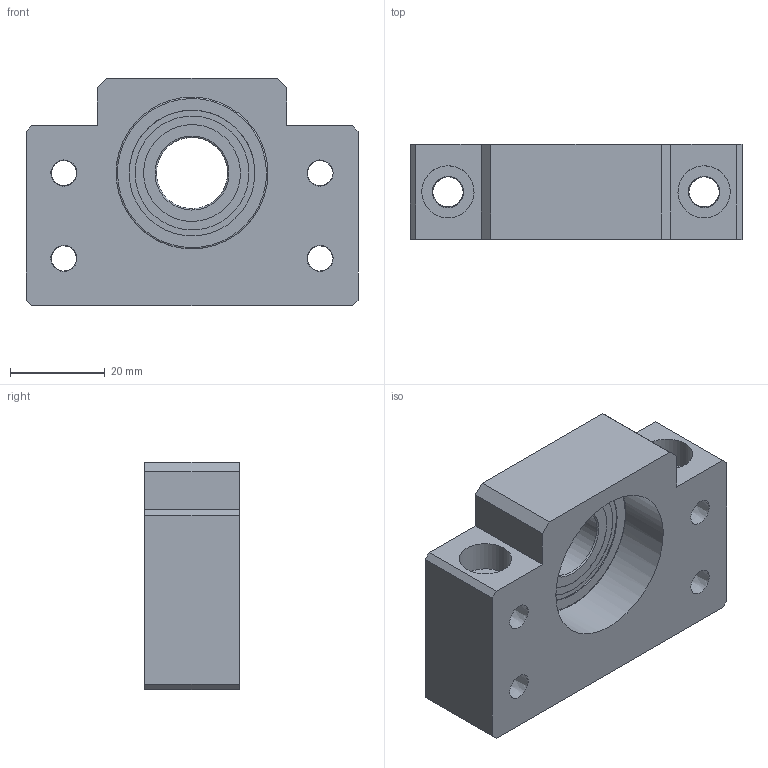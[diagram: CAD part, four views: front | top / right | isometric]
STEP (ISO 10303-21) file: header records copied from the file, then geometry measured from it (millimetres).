
FILE_DESCRIPTION( ('This file contains a STEP AP42 implementation' ,'as created by ZW3D STEP Interface translator.') ,'2;1' );
FILE_NAME( '85FF4EEA-31CF-7B56-6FC5-8C613D909277.stp' ,'18 1 4.1742 0', (''), ('ZWCAD Software Co.'), 'Version 1.0', 'ZW3D to STEP translator', '' );
FILE_SCHEMA( ('CONFIG_CONTROL_DESIGN') );
Length unit declared in the file: millimetre
Products named in the file (4): 0; NSFBF-15; _BF 15 Part2; _BF 15 Part1
Assembly tree (2 placements, depth 2):
  0
  NSFBF-15
    _BF 15 Part2
    _BF 15 Part1
Bounding box: 70 x 20 x 48 mm (x, y, z)
Volume: 45824.7 mm3; surface area: 15982.1 mm2
Topology: 2 solids, 2 shells, 51 faces, 126 edges, 83 vertices
Faces by surface type: bspline 51
Entity records: 2379 total; most frequent: CARTESIAN_POINT 1453, ORIENTED_EDGE 252, EDGE_CURVE 126, VERTEX_POINT 83, B_SPLINE_CURVE_WITH_KNOTS 83, EDGE_LOOP 79, FACE_OUTER_BOUND 51, ADVANCED_FACE 51
